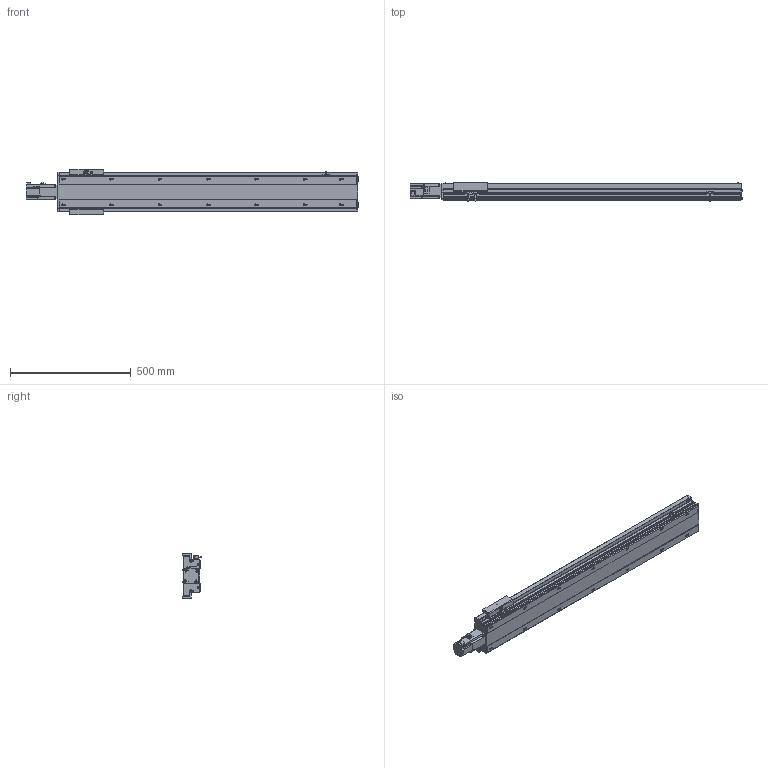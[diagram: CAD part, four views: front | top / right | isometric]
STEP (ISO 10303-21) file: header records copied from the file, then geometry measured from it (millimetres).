
FILE_DESCRIPTION(/* description */ ('STEP AP214'),/* implementation_level */ '2;1');
FILE_NAME(/* name */ 'PSM140-L10-S1000-BC-T40-C1-N(0)',/* time_stamp */ '2022-06-13T03:19:54+02:00',/* author */ ('License CC BY-ND 4.0'),/* organization */ ('CADENAS'),/* preprocessor_version */ 'ST-DEVELOPER v18.102',/* originating_system */ 'PARTsolutions',/* authorisation */ ' ');
FILE_SCHEMA (('AUTOMOTIVE_DESIGN {1 0 10303 214 3 1 1}'));
Length unit declared in the file: millimetre
Products named in the file (7): PSM140-L10-S1000-BC-T40-C1-N(0); PSM-Sensor; PSM140-S1000-1242.5; T40-p1; PSM140_body3; PSM140-S1000_body1; PSM140-L10-S1000-BC-T40-C1-N(0)_dummy
Assembly tree (10 placements, depth 2):
  PSM140-L10-S1000-BC-T40-C1-N(0)
    PSM-Sensor  x3
    PSM140-S1000-1242.5  x3
    T40-p1
    PSM140_body3
    PSM140-S1000_body1
    PSM140-L10-S1000-BC-T40-C1-N(0)_dummy
Bounding box: 1373.7 x 81.3 x 190 mm (x, y, z)
Volume: 5793947.5 mm3; surface area: 1238428 mm2
Topology: 9 solids, 9 shells, 976 faces, 2587 edges, 1682 vertices
Faces by surface type: plane 632, cylinder 266, cone 64, torus 14
Full cylindrical faces by diameter (mm): 2.8 x3, 4.5 x12, 4.6 x3, 4.917 x22, 5.5 x7, 5.7 x6, 6 x2, 7 x22, 8 x8, 8.5 x4, 10.5 x14, 14 x1, 50 x1
Entity records: 24984 total; most frequent: CARTESIAN_POINT 4525, DIRECTION 4203, ORIENTED_EDGE 3950, EDGE_CURVE 1975, AXIS2_PLACEMENT_3D 1413, VERTEX_POINT 1392, LINE 1377, VECTOR 1377
